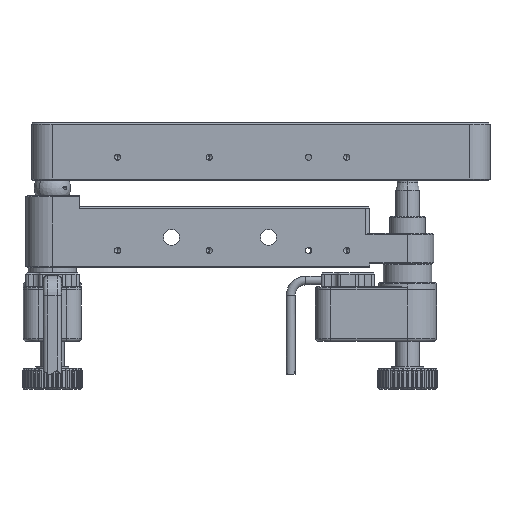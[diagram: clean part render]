
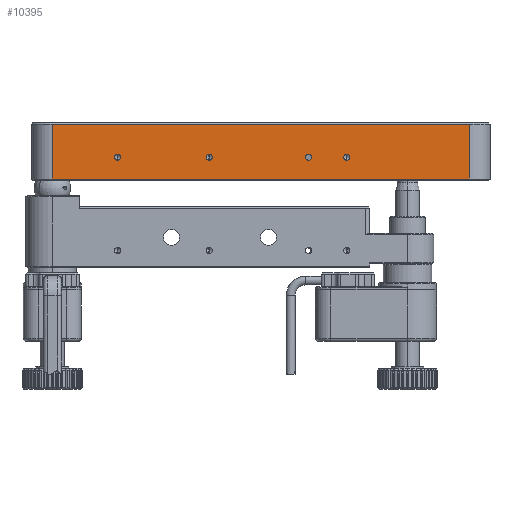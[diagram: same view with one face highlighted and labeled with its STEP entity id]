
A CAD part, front view. The second image highlights one B-rep face of the part: STEP entity #10395.
In plain terms, the highlighted planar face has unit normal (0, -1, 0).
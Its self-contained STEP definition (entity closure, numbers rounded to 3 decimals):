
#554 = VERTEX_POINT ( 'NONE', #5462 ) ;
#1051 = AXIS2_PLACEMENT_3D ( 'NONE', #47658, #27663, #44031 ) ;
#1096 = ORIENTED_EDGE ( 'NONE', *, *, #14259, .F. ) ;
#1389 = ORIENTED_EDGE ( 'NONE', *, *, #50915, .F. ) ;
#1613 = VECTOR ( 'NONE', #47977, 1000. ) ;
#2233 = VERTEX_POINT ( 'NONE', #5677 ) ;
#2586 = CARTESIAN_POINT ( 'NONE',  ( 10.5, -62., 29.72 ) ) ;
#2587 = EDGE_CURVE ( 'NONE', #2233, #40178, #37790, .T. ) ;
#2727 = ORIENTED_EDGE ( 'NONE', *, *, #34142, .F. ) ;
#3031 = ORIENTED_EDGE ( 'NONE', *, *, #6573, .F. ) ;
#3535 = CARTESIAN_POINT ( 'NONE',  ( -15.5, -62., 28.12 ) ) ;
#4771 = CARTESIAN_POINT ( 'NONE',  ( -39.5, -62., 28.92 ) ) ;
#5011 = FACE_BOUND ( 'NONE', #47571, .T. ) ;
#5215 = VECTOR ( 'NONE', #30980, 1000. ) ;
#5462 = CARTESIAN_POINT ( 'NONE',  ( 20.5, -62., 29.72 ) ) ;
#5677 = CARTESIAN_POINT ( 'NONE',  ( -39.5, -62., 29.72 ) ) ;
#6107 = DIRECTION ( 'NONE',  ( 0., 0., -1. ) ) ;
#6573 = EDGE_CURVE ( 'NONE', #9708, #38958, #39362, .T. ) ;
#6928 = CARTESIAN_POINT ( 'NONE',  ( 20.5, -62., 28.12 ) ) ;
#7329 = EDGE_CURVE ( 'NONE', #18856, #40283, #46146, .T. ) ;
#7549 = CARTESIAN_POINT ( 'NONE',  ( 52.6, -62., 37.62 ) ) ;
#8251 = EDGE_CURVE ( 'NONE', #29438, #23951, #13628, .T. ) ;
#8903 = DIRECTION ( 'NONE',  ( 0., -1., 0. ) ) ;
#9535 = EDGE_CURVE ( 'NONE', #40283, #29438, #38963, .T. ) ;
#9708 = VERTEX_POINT ( 'NONE', #2586 ) ;
#10395 = ADVANCED_FACE ( 'NONE', ( #26256, #48694, #5011, #24385, #20653 ), #51330, .F. ) ;
#12311 = ORIENTED_EDGE ( 'NONE', *, *, #8251, .T. ) ;
#12348 = CARTESIAN_POINT ( 'NONE',  ( 10.5, -62., 28.12 ) ) ;
#12825 = AXIS2_PLACEMENT_3D ( 'NONE', #16246, #20276, #28348 ) ;
#13424 = CARTESIAN_POINT ( 'NONE',  ( 10.5, -62., 28.92 ) ) ;
#13628 = LINE ( 'NONE', #46498, #43569 ) ;
#14259 = EDGE_CURVE ( 'NONE', #27098, #554, #19741, .T. ) ;
#15402 = DIRECTION ( 'NONE',  ( 0., 0., -1. ) ) ;
#16159 = VECTOR ( 'NONE', #31507, 1000. ) ;
#16246 = CARTESIAN_POINT ( 'NONE',  ( -39.5, -62., 28.92 ) ) ;
#16569 = AXIS2_PLACEMENT_3D ( 'NONE', #20767, #8903, #25292 ) ;
#16578 = LINE ( 'NONE', #44006, #1613 ) ;
#17869 = CARTESIAN_POINT ( 'NONE',  ( 52.6, -62., 23.22 ) ) ;
#18549 = DIRECTION ( 'NONE',  ( 0., 0., -1. ) ) ;
#18856 = VERTEX_POINT ( 'NONE', #17869 ) ;
#19033 = CIRCLE ( 'NONE', #42721, 0.8 ) ;
#19741 = CIRCLE ( 'NONE', #16569, 0.8 ) ;
#19794 = CARTESIAN_POINT ( 'NONE',  ( -56.6, -62., 37.62 ) ) ;
#20276 = DIRECTION ( 'NONE',  ( 0., -1., 0. ) ) ;
#20653 = FACE_OUTER_BOUND ( 'NONE', #24142, .T. ) ;
#20767 = CARTESIAN_POINT ( 'NONE',  ( 20.5, -62., 28.92 ) ) ;
#21306 = AXIS2_PLACEMENT_3D ( 'NONE', #13424, #29545, #30059 ) ;
#21457 = ORIENTED_EDGE ( 'NONE', *, *, #42950, .T. ) ;
#21759 = CARTESIAN_POINT ( 'NONE',  ( -15.5, -62., 28.92 ) ) ;
#21794 = ORIENTED_EDGE ( 'NONE', *, *, #9535, .T. ) ;
#22946 = CIRCLE ( 'NONE', #38714, 0.8 ) ;
#23951 = VERTEX_POINT ( 'NONE', #41058 ) ;
#23995 = CARTESIAN_POINT ( 'NONE',  ( -15.5, -62., 29.72 ) ) ;
#24142 = EDGE_LOOP ( 'NONE', ( #51015, #21794, #12311, #21457 ) ) ;
#24385 = FACE_BOUND ( 'NONE', #37848, .T. ) ;
#24539 = AXIS2_PLACEMENT_3D ( 'NONE', #44665, #24592, #40310 ) ;
#24592 = DIRECTION ( 'NONE',  ( 0., -1., 0. ) ) ;
#25292 = DIRECTION ( 'NONE',  ( 0., 0., -1. ) ) ;
#26256 = FACE_BOUND ( 'NONE', #43666, .T. ) ;
#27098 = VERTEX_POINT ( 'NONE', #6928 ) ;
#27663 = DIRECTION ( 'NONE',  ( 0., 1., 0. ) ) ;
#27784 = AXIS2_PLACEMENT_3D ( 'NONE', #34664, #46434, #18549 ) ;
#28348 = DIRECTION ( 'NONE',  ( 0., 0., -1. ) ) ;
#29438 = VERTEX_POINT ( 'NONE', #19794 ) ;
#29545 = DIRECTION ( 'NONE',  ( 0., -1., 0. ) ) ;
#30059 = DIRECTION ( 'NONE',  ( 0., 0., -1. ) ) ;
#30097 = EDGE_LOOP ( 'NONE', ( #31784, #47848 ) ) ;
#30299 = CIRCLE ( 'NONE', #42890, 0.8 ) ;
#30980 = DIRECTION ( 'NONE',  ( -1., 0., 0. ) ) ;
#31507 = DIRECTION ( 'NONE',  ( 0., 0., 1. ) ) ;
#31784 = ORIENTED_EDGE ( 'NONE', *, *, #45375, .F. ) ;
#32399 = DIRECTION ( 'NONE',  ( 0., -1., 0. ) ) ;
#33921 = CIRCLE ( 'NONE', #27784, 0.8 ) ;
#34142 = EDGE_CURVE ( 'NONE', #554, #27098, #48117, .T. ) ;
#34664 = CARTESIAN_POINT ( 'NONE',  ( -15.5, -62., 28.92 ) ) ;
#34850 = DIRECTION ( 'NONE',  ( 0., -1., 0. ) ) ;
#37503 = DIRECTION ( 'NONE',  ( 0., 0., -1. ) ) ;
#37790 = CIRCLE ( 'NONE', #12825, 0.8 ) ;
#37848 = EDGE_LOOP ( 'NONE', ( #1389, #3031 ) ) ;
#38255 = VERTEX_POINT ( 'NONE', #3535 ) ;
#38636 = CARTESIAN_POINT ( 'NONE',  ( -39.5, -62., 28.12 ) ) ;
#38714 = AXIS2_PLACEMENT_3D ( 'NONE', #42819, #34850, #15402 ) ;
#38958 = VERTEX_POINT ( 'NONE', #12348 ) ;
#38963 = LINE ( 'NONE', #42813, #5215 ) ;
#39362 = CIRCLE ( 'NONE', #21306, 0.8 ) ;
#39572 = EDGE_CURVE ( 'NONE', #40178, #2233, #19033, .T. ) ;
#40178 = VERTEX_POINT ( 'NONE', #38636 ) ;
#40283 = VERTEX_POINT ( 'NONE', #7549 ) ;
#40310 = DIRECTION ( 'NONE',  ( 0., 0., -1. ) ) ;
#41058 = CARTESIAN_POINT ( 'NONE',  ( -56.6, -62., 23.22 ) ) ;
#41660 = ORIENTED_EDGE ( 'NONE', *, *, #39572, .F. ) ;
#42721 = AXIS2_PLACEMENT_3D ( 'NONE', #4771, #32399, #6107 ) ;
#42813 = CARTESIAN_POINT ( 'NONE',  ( -56.6, -62., 37.62 ) ) ;
#42819 = CARTESIAN_POINT ( 'NONE',  ( 10.5, -62., 28.92 ) ) ;
#42890 = AXIS2_PLACEMENT_3D ( 'NONE', #21759, #45663, #37503 ) ;
#42950 = EDGE_CURVE ( 'NONE', #23951, #18856, #16578, .T. ) ;
#43309 = ORIENTED_EDGE ( 'NONE', *, *, #2587, .F. ) ;
#43569 = VECTOR ( 'NONE', #50012, 1000. ) ;
#43666 = EDGE_LOOP ( 'NONE', ( #1096, #2727 ) ) ;
#43718 = EDGE_CURVE ( 'NONE', #48578, #38255, #30299, .T. ) ;
#44006 = CARTESIAN_POINT ( 'NONE',  ( -62., -62., 23.22 ) ) ;
#44031 = DIRECTION ( 'NONE',  ( 0., 0., 1. ) ) ;
#44665 = CARTESIAN_POINT ( 'NONE',  ( 20.5, -62., 28.92 ) ) ;
#45375 = EDGE_CURVE ( 'NONE', #38255, #48578, #33921, .T. ) ;
#45663 = DIRECTION ( 'NONE',  ( 0., -1., 0. ) ) ;
#46146 = LINE ( 'NONE', #47827, #16159 ) ;
#46434 = DIRECTION ( 'NONE',  ( 0., -1., 0. ) ) ;
#46498 = CARTESIAN_POINT ( 'NONE',  ( -56.6, -62., 37.92 ) ) ;
#47571 = EDGE_LOOP ( 'NONE', ( #41660, #43309 ) ) ;
#47658 = CARTESIAN_POINT ( 'NONE',  ( -62., -62., 37.92 ) ) ;
#47827 = CARTESIAN_POINT ( 'NONE',  ( 52.6, -62., 37.92 ) ) ;
#47848 = ORIENTED_EDGE ( 'NONE', *, *, #43718, .F. ) ;
#47977 = DIRECTION ( 'NONE',  ( 1., 0., 0. ) ) ;
#48117 = CIRCLE ( 'NONE', #24539, 0.8 ) ;
#48578 = VERTEX_POINT ( 'NONE', #23995 ) ;
#48694 = FACE_BOUND ( 'NONE', #30097, .T. ) ;
#50012 = DIRECTION ( 'NONE',  ( 0., 0., -1. ) ) ;
#50915 = EDGE_CURVE ( 'NONE', #38958, #9708, #22946, .T. ) ;
#51015 = ORIENTED_EDGE ( 'NONE', *, *, #7329, .T. ) ;
#51330 = PLANE ( 'NONE',  #1051 ) ;
